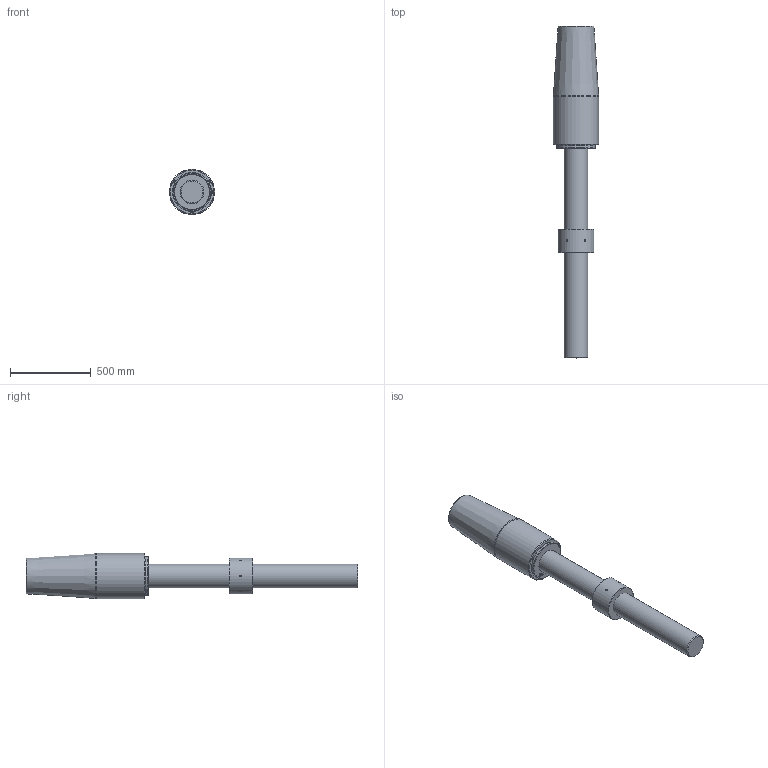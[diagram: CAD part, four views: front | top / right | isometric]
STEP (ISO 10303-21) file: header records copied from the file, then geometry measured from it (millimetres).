
FILE_DESCRIPTION(/* description */ (''),/* implementation_level */ '2;1');
FILE_NAME(/* name */ 'D:\Clienti\Redaelli (inventor)\CYB\STEP\Arrangement\CYB096 52 061 0.stp',/* time_stamp */ '2021-05-08T14:52:13+02:00',/* author */ ('fabri'),/* organization */ (''),/* preprocessor_version */ 'ST-DEVELOPER v16.13',/* originating_system */ 'Autodesk Inventor 2018',/* authorisation */ '');
FILE_SCHEMA (('AUTOMOTIVE_DESIGN { 1 0 10303 214 3 1 1 }'));
Length unit declared in the file: millimetre
Products named in the file (5): CYB096 52 061 0; RNT052 41 051 0_ROD; RNT052 41 051 0_ROD_1; CCY021-51-061-0_BUSH; CCY021-51-061-0
Assembly tree (4 placements, depth 2):
  CYB096 52 061 0
    RNT052 41 051 0_ROD
    RNT052 41 051 0_ROD_1
    CCY021-51-061-0_BUSH
    CCY021-51-061-0
Bounding box: 280 x 2052 x 280 mm (x, y, z)
Volume: 72518174.8 mm3; surface area: 1920445.9 mm2
Topology: 4 solids, 4 shells, 743 faces, 1992 edges, 1323 vertices
Faces by surface type: bspline 436, plane 269, cylinder 18, cone 16, torus 4
Full cylindrical faces by diameter (mm): 10 x6, 13.835 x3, 138.505 x2, 145 x1, 146 x1, 205 x1, 215 x1, 220 x1, 240 x1, 280 x1
Entity records: 25448 total; most frequent: CARTESIAN_POINT 9901, ORIENTED_EDGE 3886, EDGE_CURVE 1943, DIRECTION 1735, VERTEX_POINT 1313, LINE 1017, VECTOR 1017, B_SPLINE_CURVE_WITH_KNOTS 882
